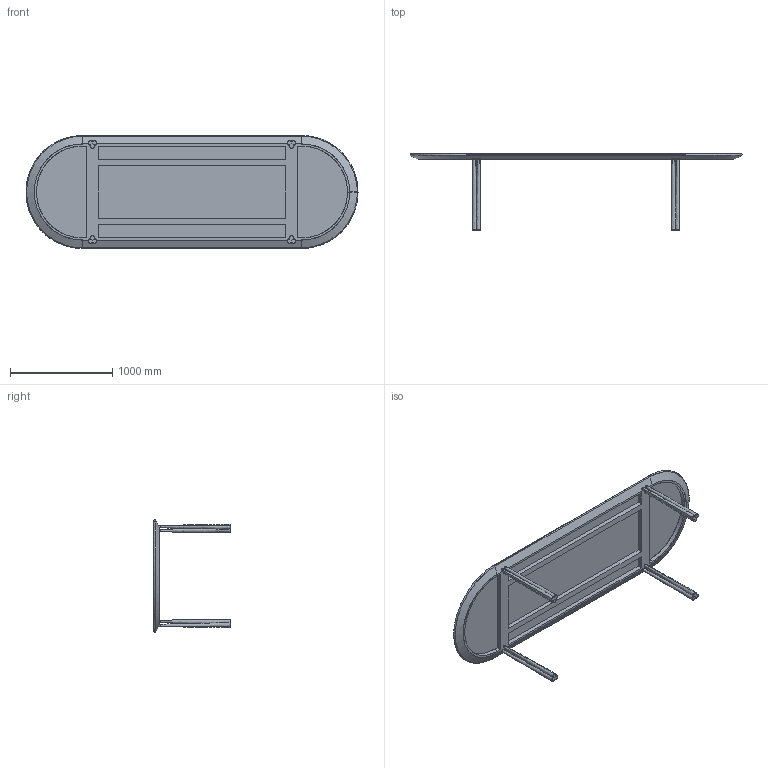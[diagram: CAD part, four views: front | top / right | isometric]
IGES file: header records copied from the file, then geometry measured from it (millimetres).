
Start section: SolidWorks IGES file using analytic representation for surfaces
Global section: file name: E:\Box Sync\Jason Miller\051 Elliot Dining Table\sales related\SW\051GZ Wide Elliot Dining Table\051GZ Elliot Dining Table.IGS; native system: SolidWorks 2016; preprocessor: SolidWorks 2016; author: Kumagai; date: 180320.175641; units: millimetre
Bounding box: 3249.97 x 753.5 x 1104.66 mm (x, y, z)
Surface area: 8599961.8 mm2 (no closed solid volume)
Topology: 0 solids, 0 shells, 223 faces, 5252 edges, 5252 vertices
Faces by surface type: bspline 161, revolution 62
